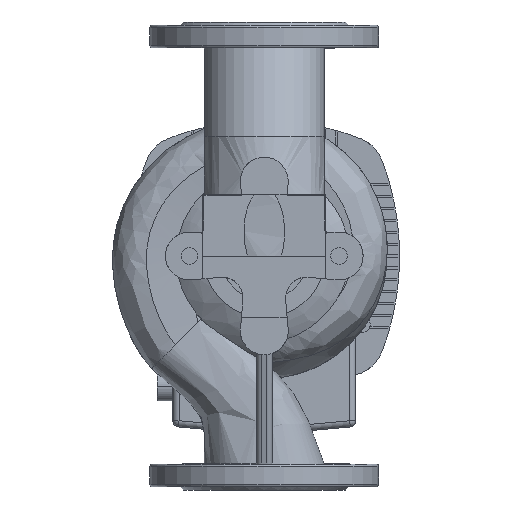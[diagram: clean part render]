
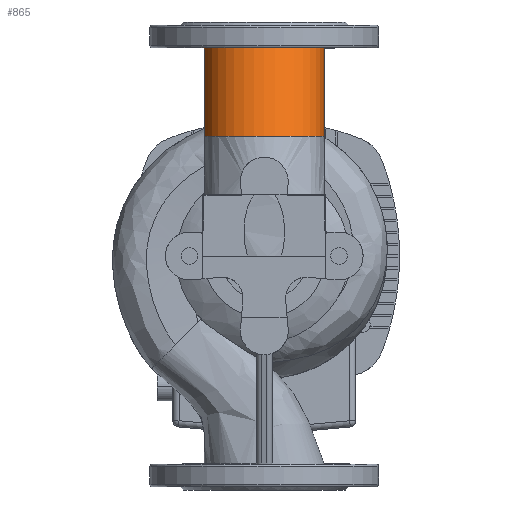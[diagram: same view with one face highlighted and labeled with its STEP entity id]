
A CAD part, front view. The second image highlights one B-rep face of the part: STEP entity #865.
In plain terms, the highlighted free-form (B-spline) face has degree [3, 1] with [7, 2] control points.
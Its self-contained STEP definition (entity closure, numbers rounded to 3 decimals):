
#165=(
BOUNDED_SURFACE()
B_SPLINE_SURFACE(3,1,((#25411,#25412),(#25413,#25414),(#25415,#25416),(#25417,
#25418),(#25419,#25420),(#25421,#25422),(#25423,#25424)),.UNSPECIFIED.,
 .T.,.F.,.F.)
B_SPLINE_SURFACE_WITH_KNOTS((1,3,3,3,1),(2,2),(-0.5,0.,0.5,1.,1.5),(0.,
1.),.UNSPECIFIED.)
GEOMETRIC_REPRESENTATION_ITEM()
RATIONAL_B_SPLINE_SURFACE(((1.,1.),(0.333,0.333),
(0.333,0.333),(1.,1.),(0.333,0.333),
(0.333,0.333),(1.,1.)))
REPRESENTATION_ITEM('')
SURFACE()
);
#865=ADVANCED_FACE('',(#2410),#165,.F.);
#2410=FACE_OUTER_BOUND('',#3316,.T.);
#3316=EDGE_LOOP('',(#5857,#5858,#5859,#5860));
#4490=CIRCLE('',#18008,57.5);
#4491=CIRCLE('',#18009,57.5);
#5857=ORIENTED_EDGE('',*,*,#12790,.F.);
#5858=ORIENTED_EDGE('',*,*,#12791,.T.);
#5859=ORIENTED_EDGE('',*,*,#12792,.T.);
#5860=ORIENTED_EDGE('',*,*,#12793,.F.);
#11052=VERTEX_POINT('',#25404);
#11053=VERTEX_POINT('',#25405);
#11054=VERTEX_POINT('',#25407);
#11055=VERTEX_POINT('',#25409);
#12790=EDGE_CURVE('',#11052,#11053,#4490,.T.);
#12791=EDGE_CURVE('',#11052,#11054,#15285,.T.);
#12792=EDGE_CURVE('',#11054,#11055,#4491,.T.);
#12793=EDGE_CURVE('',#11053,#11055,#15286,.T.);
#15285=LINE('',#25406,#16620);
#15286=LINE('',#25410,#16621);
#16620=VECTOR('',#20017,1.);
#16621=VECTOR('',#20020,1.);
#18008=AXIS2_PLACEMENT_3D('',#25403,#20015,#20016);
#18009=AXIS2_PLACEMENT_3D('',#25408,#20018,#20019);
#20015=DIRECTION('',(0.,0.,-1.));
#20016=DIRECTION('',(-1.,0.,0.));
#20017=DIRECTION('',(0.,0.423,0.906));
#20018=DIRECTION('',(0.,0.,-1.));
#20019=DIRECTION('',(1.,0.,0.));
#20020=DIRECTION('',(0.,0.423,0.906));
#25403=CARTESIAN_POINT('',(0.,-39.575,115.131));
#25404=CARTESIAN_POINT('',(57.5,-39.575,115.131));
#25405=CARTESIAN_POINT('',(-57.5,-39.575,115.131));
#25406=CARTESIAN_POINT('',(57.5,-19.788,157.566));
#25407=CARTESIAN_POINT('',(57.5,0.,200.));
#25408=CARTESIAN_POINT('',(0.,0.,200.));
#25409=CARTESIAN_POINT('',(-57.5,0.,200.));
#25410=CARTESIAN_POINT('',(-57.5,-19.788,157.566));
#25411=CARTESIAN_POINT('',(-57.5,-39.575,115.131));
#25412=CARTESIAN_POINT('',(-57.5,0.,200.));
#25413=CARTESIAN_POINT('',(-57.5,75.425,115.131));
#25414=CARTESIAN_POINT('',(-57.5,115.,200.));
#25415=CARTESIAN_POINT('',(57.5,75.425,115.131));
#25416=CARTESIAN_POINT('',(57.5,115.,200.));
#25417=CARTESIAN_POINT('',(57.5,-39.575,115.131));
#25418=CARTESIAN_POINT('',(57.5,0.,200.));
#25419=CARTESIAN_POINT('',(57.5,-154.575,115.131));
#25420=CARTESIAN_POINT('',(57.5,-115.,200.));
#25421=CARTESIAN_POINT('',(-57.5,-154.575,115.131));
#25422=CARTESIAN_POINT('',(-57.5,-115.,200.));
#25423=CARTESIAN_POINT('',(-57.5,-39.575,115.131));
#25424=CARTESIAN_POINT('',(-57.5,0.,200.));
